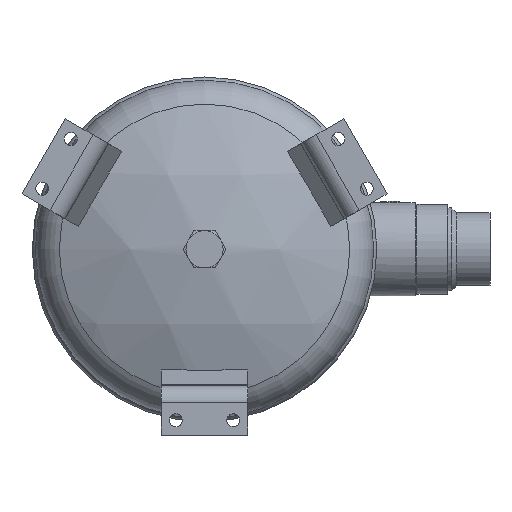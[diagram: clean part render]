
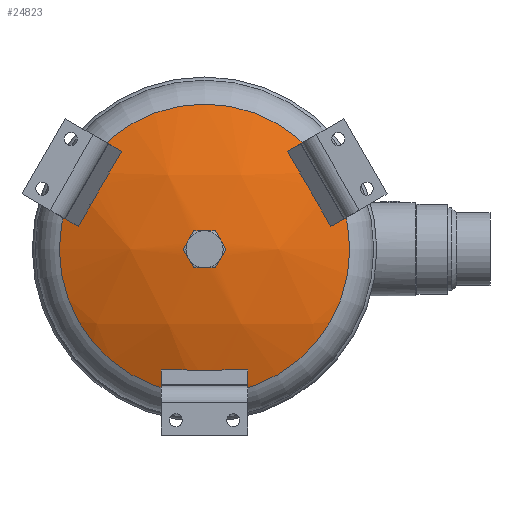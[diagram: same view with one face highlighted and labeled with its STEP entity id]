
A CAD part, front view. The second image highlights one B-rep face of the part: STEP entity #24823.
In plain terms, the highlighted spherical face has radius 279 mm.
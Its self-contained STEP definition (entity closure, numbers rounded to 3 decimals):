
#38=SPHERICAL_SURFACE('',#26021,279.);
#318=FACE_BOUND('',#4395,.T.);
#319=FACE_BOUND('',#4396,.T.);
#320=FACE_BOUND('',#4397,.T.);
#321=FACE_BOUND('',#4398,.T.);
#2872=FACE_OUTER_BOUND('',#4394,.T.);
#4394=EDGE_LOOP('',(#23225));
#4395=EDGE_LOOP('',(#23226,#23227,#23228,#23229));
#4396=EDGE_LOOP('',(#23230,#23231,#23232,#23233));
#4397=EDGE_LOOP('',(#23234,#23235,#23236,#23237));
#4398=EDGE_LOOP('',(#23238));
#4892=CIRCLE('',#25919,16.588);
#4893=CIRCLE('',#25921,16.588);
#4894=CIRCLE('',#25923,278.902);
#4901=CIRCLE('',#25934,278.999);
#4908=CIRCLE('',#25952,16.588);
#4909=CIRCLE('',#25954,16.588);
#4910=CIRCLE('',#25956,278.902);
#4917=CIRCLE('',#25967,278.999);
#4924=CIRCLE('',#25985,16.588);
#4925=CIRCLE('',#25987,16.588);
#4926=CIRCLE('',#25989,278.902);
#4933=CIRCLE('',#26000,278.999);
#4941=CIRCLE('',#26020,117.235);
#4942=CIRCLE('',#26022,11.25);
#12181=VERTEX_POINT('',#56044);
#12182=VERTEX_POINT('',#56045);
#12185=VERTEX_POINT('',#56053);
#12186=VERTEX_POINT('',#56054);
#12213=VERTEX_POINT('',#56139);
#12214=VERTEX_POINT('',#56140);
#12217=VERTEX_POINT('',#56148);
#12218=VERTEX_POINT('',#56149);
#12245=VERTEX_POINT('',#56234);
#12246=VERTEX_POINT('',#56235);
#12249=VERTEX_POINT('',#56243);
#12250=VERTEX_POINT('',#56244);
#12278=VERTEX_POINT('',#56332);
#12279=VERTEX_POINT('',#56335);
#15797=EDGE_CURVE('',#12181,#12182,#4892,.T.);
#15801=EDGE_CURVE('',#12185,#12186,#4893,.T.);
#15805=EDGE_CURVE('',#12182,#12185,#4894,.T.);
#15816=EDGE_CURVE('',#12186,#12181,#4901,.T.);
#15843=EDGE_CURVE('',#12213,#12214,#4908,.T.);
#15847=EDGE_CURVE('',#12217,#12218,#4909,.T.);
#15851=EDGE_CURVE('',#12214,#12217,#4910,.T.);
#15862=EDGE_CURVE('',#12218,#12213,#4917,.T.);
#15889=EDGE_CURVE('',#12245,#12246,#4924,.T.);
#15893=EDGE_CURVE('',#12249,#12250,#4925,.T.);
#15897=EDGE_CURVE('',#12246,#12249,#4926,.T.);
#15908=EDGE_CURVE('',#12250,#12245,#4933,.T.);
#15936=EDGE_CURVE('',#12278,#12278,#4941,.T.);
#15937=EDGE_CURVE('',#12279,#12279,#4942,.T.);
#23225=ORIENTED_EDGE('',*,*,#15936,.T.);
#23226=ORIENTED_EDGE('',*,*,#15805,.T.);
#23227=ORIENTED_EDGE('',*,*,#15801,.T.);
#23228=ORIENTED_EDGE('',*,*,#15816,.T.);
#23229=ORIENTED_EDGE('',*,*,#15797,.T.);
#23230=ORIENTED_EDGE('',*,*,#15851,.T.);
#23231=ORIENTED_EDGE('',*,*,#15847,.T.);
#23232=ORIENTED_EDGE('',*,*,#15862,.T.);
#23233=ORIENTED_EDGE('',*,*,#15843,.T.);
#23234=ORIENTED_EDGE('',*,*,#15897,.T.);
#23235=ORIENTED_EDGE('',*,*,#15893,.T.);
#23236=ORIENTED_EDGE('',*,*,#15908,.T.);
#23237=ORIENTED_EDGE('',*,*,#15889,.T.);
#23238=ORIENTED_EDGE('',*,*,#15937,.T.);
#24823=ADVANCED_FACE('',(#2872,#318,#319,#320,#321),#38,.T.);
#25919=AXIS2_PLACEMENT_3D('',#56046,#29868,#29869);
#25921=AXIS2_PLACEMENT_3D('',#56055,#29875,#29876);
#25923=AXIS2_PLACEMENT_3D('',#56062,#29882,#29883);
#25934=AXIS2_PLACEMENT_3D('',#56085,#29908,#29909);
#25952=AXIS2_PLACEMENT_3D('',#56141,#29964,#29965);
#25954=AXIS2_PLACEMENT_3D('',#56150,#29971,#29972);
#25956=AXIS2_PLACEMENT_3D('',#56157,#29978,#29979);
#25967=AXIS2_PLACEMENT_3D('',#56180,#30004,#30005);
#25985=AXIS2_PLACEMENT_3D('',#56236,#30060,#30061);
#25987=AXIS2_PLACEMENT_3D('',#56245,#30067,#30068);
#25989=AXIS2_PLACEMENT_3D('',#56252,#30074,#30075);
#26000=AXIS2_PLACEMENT_3D('',#56275,#30100,#30101);
#26020=AXIS2_PLACEMENT_3D('',#56333,#30160,#30161);
#26021=AXIS2_PLACEMENT_3D('',#56334,#30162,#30163);
#26022=AXIS2_PLACEMENT_3D('',#56336,#30164,#30165);
#29868=DIRECTION('center_axis',(-0.324,0.927,-0.187));
#29869=DIRECTION('ref_axis',(0.,-0.198,-0.98));
#29875=DIRECTION('center_axis',(-0.324,0.927,-0.187));
#29876=DIRECTION('ref_axis',(0.,-0.198,-0.98));
#29882=DIRECTION('center_axis',(-0.803,-0.375,-0.464));
#29883=DIRECTION('ref_axis',(0.,-0.778,0.629));
#29908=DIRECTION('center_axis',(0.803,0.375,0.464));
#29909=DIRECTION('ref_axis',(0.,0.778,-0.629));
#29964=DIRECTION('center_axis',(0.324,0.927,-0.187));
#29965=DIRECTION('ref_axis',(0.,-0.198,-0.98));
#29971=DIRECTION('center_axis',(0.324,0.927,-0.187));
#29972=DIRECTION('ref_axis',(0.,-0.198,-0.98));
#29978=DIRECTION('center_axis',(0.803,-0.375,-0.464));
#29979=DIRECTION('ref_axis',(0.,-0.778,0.629));
#30004=DIRECTION('center_axis',(-0.803,0.375,0.464));
#30005=DIRECTION('ref_axis',(0.,0.778,-0.629));
#30060=DIRECTION('center_axis',(0.,0.927,
0.375));
#30061=DIRECTION('ref_axis',(0.,0.375,-0.927));
#30067=DIRECTION('center_axis',(0.,0.927,
0.375));
#30068=DIRECTION('ref_axis',(0.,0.375,-0.927));
#30074=DIRECTION('center_axis',(0.,-0.375,
0.927));
#30075=DIRECTION('ref_axis',(0.,0.927,0.375));
#30100=DIRECTION('center_axis',(0.,0.375,
-0.927));
#30101=DIRECTION('ref_axis',(0.,-0.927,-0.375));
#30160=DIRECTION('center_axis',(0.,-1.,0.));
#30161=DIRECTION('ref_axis',(-1.,0.,0.));
#30162=DIRECTION('center_axis',(0.,0.,
-1.));
#30163=DIRECTION('ref_axis',(-1.,0.,0.));
#30164=DIRECTION('center_axis',(0.,1.,0.));
#30165=DIRECTION('ref_axis',(1.,0.,0.));
#56044=CARTESIAN_POINT('',(99.127,-67.366,38.09));
#56045=CARTESIAN_POINT('',(91.839,-70.363,35.878));
#56046=CARTESIAN_POINT('Origin',(90.353,-67.593,52.165));
#56053=CARTESIAN_POINT('',(76.991,-70.363,61.596));
#56054=CARTESIAN_POINT('',(82.55,-67.366,66.802));
#56055=CARTESIAN_POINT('Origin',(90.353,-67.593,52.165));
#56062=CARTESIAN_POINT('Origin',(-5.938,187.864,-3.428));
#56085=CARTESIAN_POINT('Origin',(0.486,190.861,0.281));
#56139=CARTESIAN_POINT('',(-82.55,-67.366,66.802));
#56140=CARTESIAN_POINT('',(-76.991,-70.363,61.596));
#56141=CARTESIAN_POINT('Origin',(-90.353,-67.593,52.165));
#56148=CARTESIAN_POINT('',(-91.839,-70.363,35.878));
#56149=CARTESIAN_POINT('',(-99.127,-67.366,38.09));
#56150=CARTESIAN_POINT('Origin',(-90.353,-67.593,52.165));
#56157=CARTESIAN_POINT('Origin',(5.938,187.864,-3.428));
#56180=CARTESIAN_POINT('Origin',(-0.486,190.861,0.281));
#56234=CARTESIAN_POINT('',(-16.577,-67.366,-104.891));
#56235=CARTESIAN_POINT('',(-14.849,-70.363,-97.474));
#56236=CARTESIAN_POINT('Origin',(0.,-67.593,
-104.33));
#56243=CARTESIAN_POINT('',(14.849,-70.363,-97.474));
#56244=CARTESIAN_POINT('',(16.577,-67.366,-104.891));
#56245=CARTESIAN_POINT('Origin',(0.,-67.593,
-104.33));
#56252=CARTESIAN_POINT('Origin',(0.,187.864,
6.856));
#56275=CARTESIAN_POINT('Origin',(0.,190.861,
-0.561));
#56332=CARTESIAN_POINT('',(-117.235,-62.54,0.));
#56333=CARTESIAN_POINT('Origin',(0.,-62.54,
0.));
#56334=CARTESIAN_POINT('Origin',(0.,190.634,
0.));
#56335=CARTESIAN_POINT('',(11.25,-88.139,0.));
#56336=CARTESIAN_POINT('Origin',(0.,-88.139,
0.));
